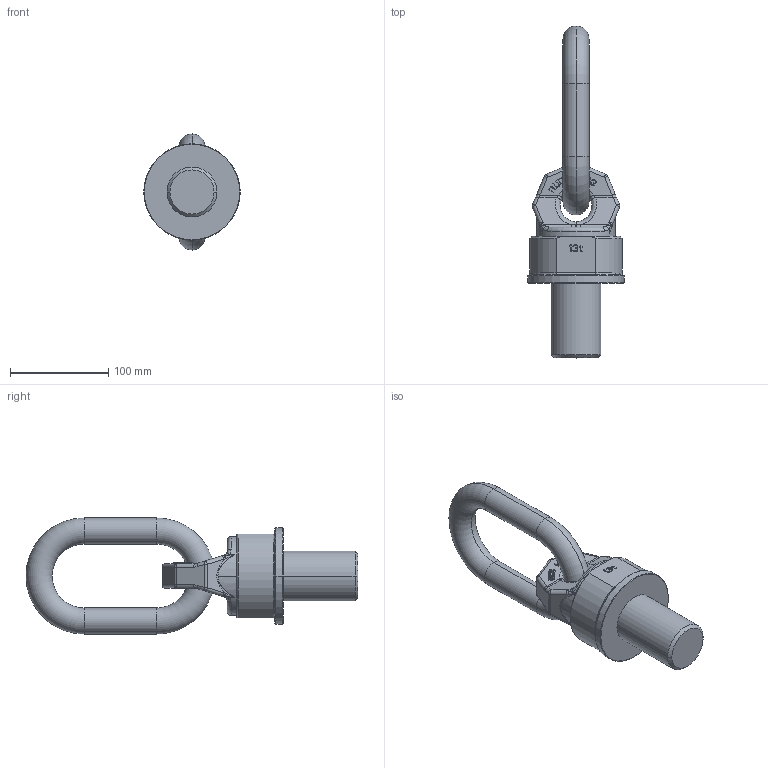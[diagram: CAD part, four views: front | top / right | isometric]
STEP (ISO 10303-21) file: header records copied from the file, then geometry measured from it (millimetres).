
FILE_DESCRIPTION((''),'2;1');
FILE_NAME('001-M34116-P-20_ASM','2019-06-27T',('anja.joas'),(''),'PRO/ENGINEER BY PARAMETRIC TECHNOLOGY CORPORATION, 2011490','PRO/ENGINEER BY PARAMETRIC TECHNOLOGY CORPORATION, 2011490','');
FILE_SCHEMA(('CONFIG_CONTROL_DESIGN'));
Length unit declared in the file: millimetre
Products named in the file (4): 001-M33245-P-10_AF0; 001-M33243-P-10; 001-M31050-P-03; 001-M34116-P-20_ASM
Assembly tree (3 placements, depth 2):
  001-M34116-P-20_ASM
    001-M33245-P-10_AF0
    001-M33243-P-10
    001-M31050-P-03
Bounding box: 98 x 337.5 x 118 mm (x, y, z)
Volume: 877769.8 mm3; surface area: 100679.3 mm2
Topology: 3 solids, 3 shells, 455 faces, 1220 edges, 782 vertices
Faces by surface type: plane 318, cylinder 63, bspline 56, torus 10, cone 8
Entity records: 15869 total; most frequent: CARTESIAN_POINT 4783, ORIENTED_EDGE 2432, DIRECTION 2046, EDGE_CURVE 1216, VECTOR 938, LINE 938, VERTEX_POINT 782, AXIS2_PLACEMENT_3D 554
